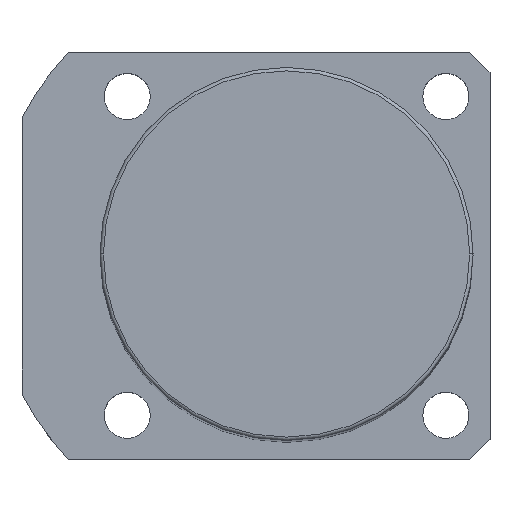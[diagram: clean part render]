
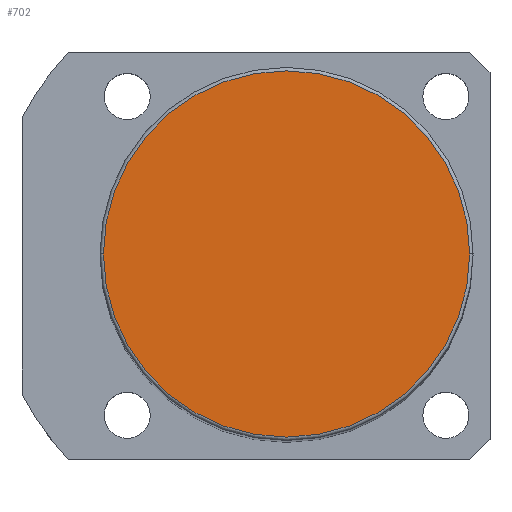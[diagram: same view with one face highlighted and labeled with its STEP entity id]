
A CAD part, top view. The second image highlights one B-rep face of the part: STEP entity #702.
In plain terms, the highlighted planar face has unit normal (0, 0, 1).
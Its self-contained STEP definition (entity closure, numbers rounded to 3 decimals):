
#97 = CARTESIAN_POINT ( 'NONE',  ( 0., 0., 171. ) ) ;
#99 = CARTESIAN_POINT ( 'NONE',  ( 0., 0., 171. ) ) ;
#238 = DIRECTION ( 'NONE',  ( 0., 0., 1. ) ) ;
#244 = DIRECTION ( 'NONE',  ( 1., 0., 0. ) ) ;
#586 = EDGE_LOOP ( 'NONE', ( #1429, #1778 ) ) ;
#672 = AXIS2_PLACEMENT_3D ( 'NONE', #1079, #940, #797 ) ;
#702 = ADVANCED_FACE ( 'NONE', ( #933 ), #1770, .T. ) ;
#703 = DIRECTION ( 'NONE',  ( 0., 0., 1. ) ) ;
#742 = EDGE_CURVE ( 'NONE', #1372, #1172, #1717, .T. ) ;
#797 = DIRECTION ( 'NONE',  ( 1., 0., 0. ) ) ;
#827 = CARTESIAN_POINT ( 'NONE',  ( 27., 0., 171. ) ) ;
#933 = FACE_OUTER_BOUND ( 'NONE', #586, .T. ) ;
#940 = DIRECTION ( 'NONE',  ( 0., 0., 1. ) ) ;
#1079 = CARTESIAN_POINT ( 'NONE',  ( 0., 0., 171. ) ) ;
#1172 = VERTEX_POINT ( 'NONE', #827 ) ;
#1372 = VERTEX_POINT ( 'NONE', #1728 ) ;
#1429 = ORIENTED_EDGE ( 'NONE', *, *, #1476, .T. ) ;
#1476 = EDGE_CURVE ( 'NONE', #1172, #1372, #1484, .T. ) ;
#1484 = CIRCLE ( 'NONE', #1581, 27. ) ;
#1581 = AXIS2_PLACEMENT_3D ( 'NONE', #99, #238, #244 ) ;
#1647 = DIRECTION ( 'NONE',  ( 1., 0., 0. ) ) ;
#1703 = AXIS2_PLACEMENT_3D ( 'NONE', #97, #703, #1647 ) ;
#1717 = CIRCLE ( 'NONE', #1703, 27. ) ;
#1728 = CARTESIAN_POINT ( 'NONE',  ( -27., 0., 171. ) ) ;
#1770 = PLANE ( 'NONE',  #672 ) ;
#1778 = ORIENTED_EDGE ( 'NONE', *, *, #742, .T. ) ;
